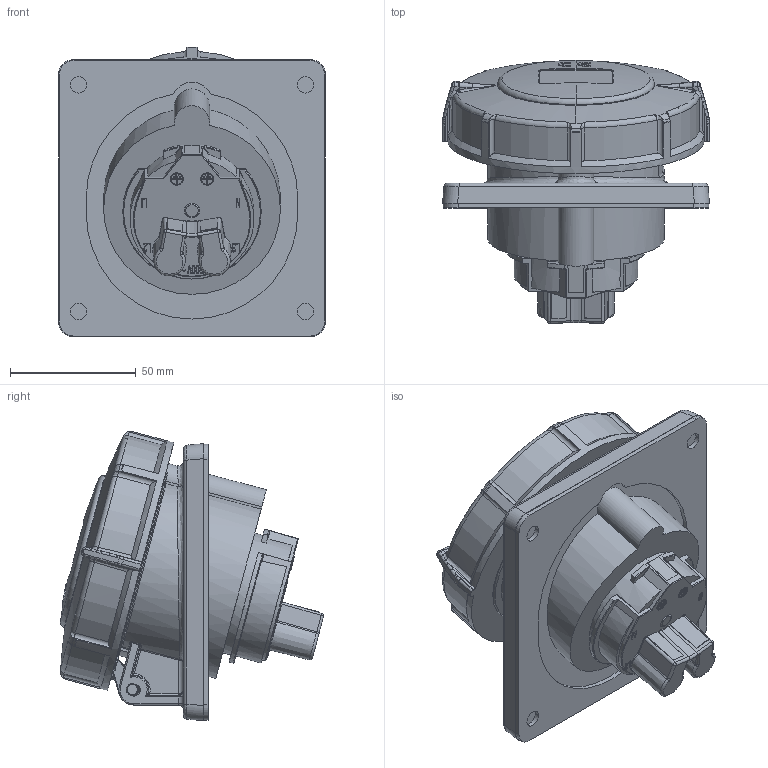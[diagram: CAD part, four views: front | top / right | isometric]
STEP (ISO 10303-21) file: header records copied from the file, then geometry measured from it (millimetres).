
FILE_DESCRIPTION((''),'2;1');
FILE_NAME('3334_SW0001','2017-10-09T',('gisse'),('MENNEKES'),'PRO/ENGINEER BY PARAMETRIC TECHNOLOGY CORPORATION, 2015440','PRO/ENGINEER BY PARAMETRIC TECHNOLOGY CORPORATION, 2015440','');
FILE_SCHEMA(('AUTOMOTIVE_DESIGN { 1 0 10303 214 1 1 1 1 }'));
Products named in the file (1): 3334_SW0001
Bounding box: 106 x 104.48 x 114.88 mm (x, y, z)
Volume: 455680.5 mm3; surface area: 60228.2 mm2
Topology: 1 solids, 1 shells, 1106 faces, 2860 edges, 1797 vertices
Faces by surface type: plane 500, bspline 249, cylinder 211, torus 78, cone 59, sphere 8, extrusion 1
Entity records: 66075 total; most frequent: CARTESIAN_POINT 19958, ORIENTED_EDGE 5708, DIRECTION 4530, PRESENTATION_STYLE_ASSIGNMENT 3939, STYLED_ITEM 2856, CURVE_STYLE 2855, EDGE_CURVE 2854, FILL_AREA_STYLE_COLOUR 1980
